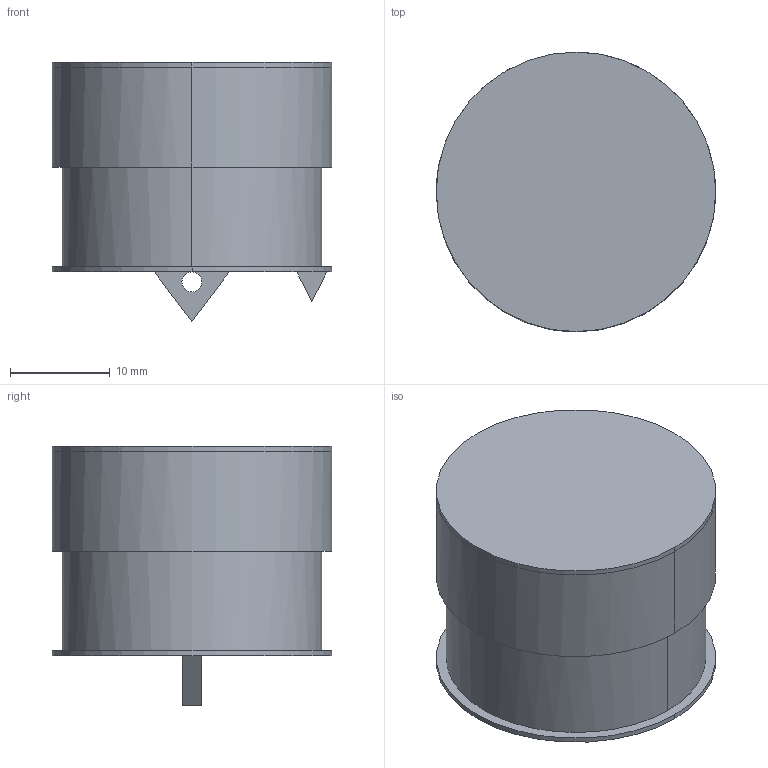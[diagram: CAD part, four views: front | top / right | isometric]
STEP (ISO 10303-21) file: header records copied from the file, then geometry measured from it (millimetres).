
FILE_DESCRIPTION(('STEP AP214'),'1');
FILE_NAME('tmp0.STEP','2026-06-08T19:10:46',(' '),(' '),'Spatial InterOp 3D',' ',' ');
FILE_SCHEMA(('AUTOMOTIVE_DESIGN { 1 0 10303 214 1 1 1 1 }'));
Length unit declared in the file: millimetre
Products named in the file (1): 1
Bounding box: 28 x 28 x 26 mm (x, y, z)
Volume: 12118.3 mm3; surface area: 7493.9 mm2
Topology: 7 solids, 7 shells, 87 faces, 186 edges, 114 vertices
Faces by surface type: cylinder 42, plane 29, sphere 16
Entity records: 2463 total; most frequent: DIRECTION 476, CARTESIAN_POINT 394, ORIENTED_EDGE 372, AXIS2_PLACEMENT_3D 196, EDGE_CURVE 186, VERTEX_POINT 114, EDGE_LOOP 90, ADVANCED_FACE 87
